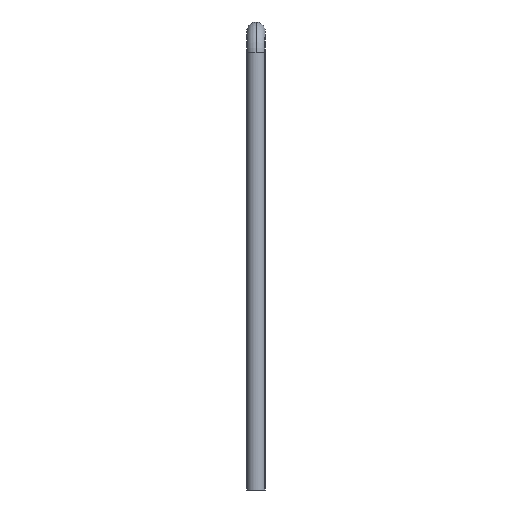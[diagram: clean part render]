
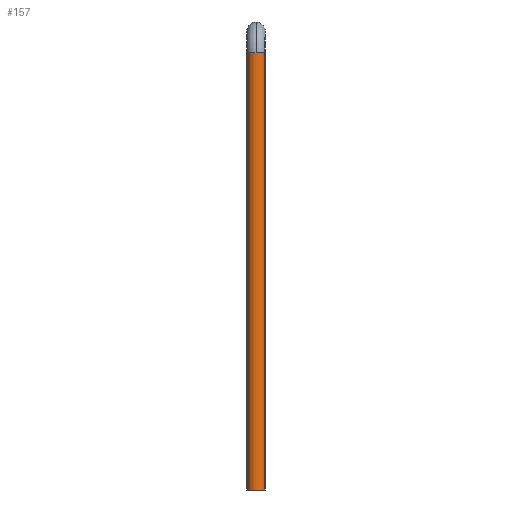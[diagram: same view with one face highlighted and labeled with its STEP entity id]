
A CAD part, left-side view. The second image highlights one B-rep face of the part: STEP entity #157.
In plain terms, the highlighted cylindrical face has radius 24.15 mm (diameter 48.3 mm), a partial arc.
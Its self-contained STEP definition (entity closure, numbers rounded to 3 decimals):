
#28 = AXIS2_PLACEMENT_3D ( 'NONE', #310, #80, #652 ) ;
#37 = EDGE_CURVE ( 'NONE', #625, #349, #226, .T. ) ;
#58 = ORIENTED_EDGE ( 'NONE', *, *, #297, .F. ) ;
#80 = DIRECTION ( 'NONE',  ( 0., 0., -1. ) ) ;
#105 = VERTEX_POINT ( 'NONE', #624 ) ;
#109 = DIRECTION ( 'NONE',  ( -1., 0., 0. ) ) ;
#121 = DIRECTION ( 'NONE',  ( 0., 0., -1. ) ) ;
#133 = CARTESIAN_POINT ( 'NONE',  ( 5935., -119.3, 3438.85 ) ) ;
#151 = AXIS2_PLACEMENT_3D ( 'NONE', #333, #440, #557 ) ;
#157 = ADVANCED_FACE ( 'NONE', ( #301 ), #192, .T. ) ;
#185 = AXIS2_PLACEMENT_3D ( 'NONE', #588, #121, #526 ) ;
#192 = CYLINDRICAL_SURFACE ( 'NONE', #28, 24.15 ) ;
#211 = ORIENTED_EDGE ( 'NONE', *, *, #37, .T. ) ;
#226 = LINE ( 'NONE', #568, #268 ) ;
#229 = VERTEX_POINT ( 'NONE', #478 ) ;
#232 = EDGE_CURVE ( 'NONE', #509, #229, #512, .T. ) ;
#256 = AXIS2_PLACEMENT_3D ( 'NONE', #451, #338, #109 ) ;
#267 = CARTESIAN_POINT ( 'NONE',  ( 5935., -119.3, 3438.85 ) ) ;
#268 = VECTOR ( 'NONE', #574, 1000. ) ;
#297 = EDGE_CURVE ( 'NONE', #509, #105, #498, .T. ) ;
#301 = FACE_OUTER_BOUND ( 'NONE', #445, .T. ) ;
#310 = CARTESIAN_POINT ( 'NONE',  ( 5935., -95.15, 3438.85 ) ) ;
#333 = CARTESIAN_POINT ( 'NONE',  ( 5935., -95.15, 2290. ) ) ;
#338 = DIRECTION ( 'NONE',  ( 0., 0., -1. ) ) ;
#349 = VERTEX_POINT ( 'NONE', #383 ) ;
#355 = CIRCLE ( 'NONE', #151, 24.15 ) ;
#359 = ORIENTED_EDGE ( 'NONE', *, *, #370, .T. ) ;
#370 = EDGE_CURVE ( 'NONE', #229, #625, #545, .T. ) ;
#383 = CARTESIAN_POINT ( 'NONE',  ( 5935., -71., 2290. ) ) ;
#440 = DIRECTION ( 'NONE',  ( 0., 0., -1. ) ) ;
#444 = VECTOR ( 'NONE', #500, 1000. ) ;
#445 = EDGE_LOOP ( 'NONE', ( #58, #686, #359, #211, #547 ) ) ;
#451 = CARTESIAN_POINT ( 'NONE',  ( 5935., -95.15, 3438.85 ) ) ;
#478 = CARTESIAN_POINT ( 'NONE',  ( 5910.85, -95.15, 3438.85 ) ) ;
#498 = LINE ( 'NONE', #267, #444 ) ;
#500 = DIRECTION ( 'NONE',  ( 0., 0., -1. ) ) ;
#509 = VERTEX_POINT ( 'NONE', #133 ) ;
#510 = CARTESIAN_POINT ( 'NONE',  ( 5935., -71., 3438.85 ) ) ;
#512 = CIRCLE ( 'NONE', #185, 24.15 ) ;
#526 = DIRECTION ( 'NONE',  ( -1., 0., 0. ) ) ;
#545 = CIRCLE ( 'NONE', #256, 24.15 ) ;
#547 = ORIENTED_EDGE ( 'NONE', *, *, #695, .F. ) ;
#557 = DIRECTION ( 'NONE',  ( -1., 0., 0. ) ) ;
#568 = CARTESIAN_POINT ( 'NONE',  ( 5935., -71., 3438.85 ) ) ;
#574 = DIRECTION ( 'NONE',  ( 0., 0., -1. ) ) ;
#588 = CARTESIAN_POINT ( 'NONE',  ( 5935., -95.15, 3438.85 ) ) ;
#624 = CARTESIAN_POINT ( 'NONE',  ( 5935., -119.3, 2290. ) ) ;
#625 = VERTEX_POINT ( 'NONE', #510 ) ;
#652 = DIRECTION ( 'NONE',  ( 0., 1., 0. ) ) ;
#686 = ORIENTED_EDGE ( 'NONE', *, *, #232, .T. ) ;
#695 = EDGE_CURVE ( 'NONE', #105, #349, #355, .T. ) ;
